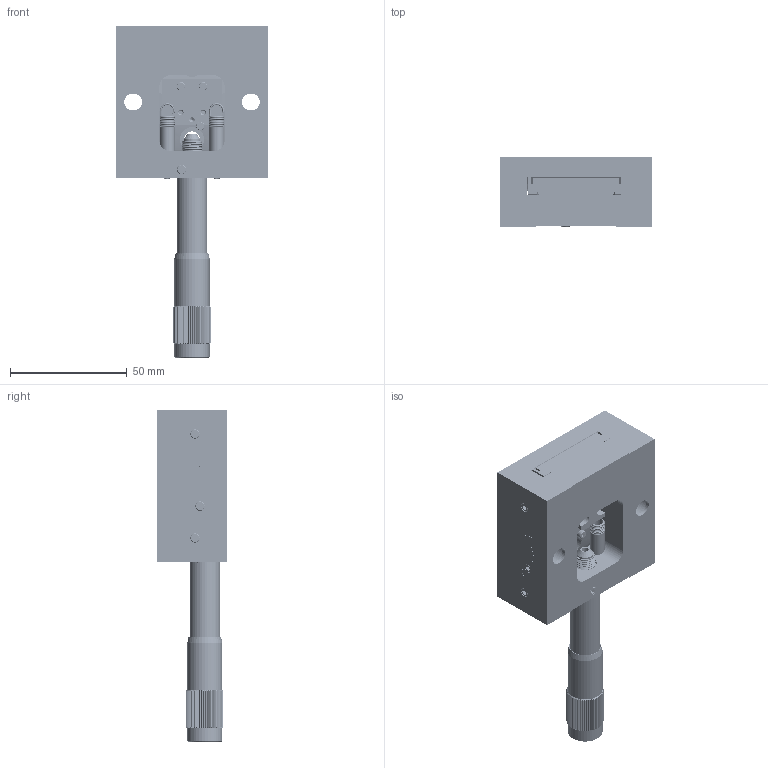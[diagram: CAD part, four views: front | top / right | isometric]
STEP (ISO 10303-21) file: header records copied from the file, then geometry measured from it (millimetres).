
FILE_DESCRIPTION (( 'STEP AP214' ), '1' );
FILE_NAME ('gon65-l-m_asm.STEP', '2022-07-07T03:54:34', ( '' ), ( '' ), 'SwSTEP 2.0', 'SolidWorks 2021', '' );
FILE_SCHEMA (( 'AUTOMOTIVE_DESIGN' ));
Length unit declared in the file: millimetre
Products named in the file (19): SPACER_6X2; M4X11_HM; SM25_A4; GON65-L-M_A4; gon65-l-m_asm(2); GON65-L-M_A1; gon65-l-m_asm; SPRING_6X22; SM25_A3; SM25_A1; GON65-L-M_A2; SM25_A2; M2X10_HM; AXLE_1_6X11; GON65-L-M_A3; M2X5_HM; SM25_A6; M4X5_HS_2; sm25_asm
Assembly tree (24 placements, depth 3):
  gon65-l-m_asm
    gon65-l-m_asm(2)
      GON65-L-M_A1
      GON65-L-M_A2
      GON65-L-M_A3
      GON65-L-M_A4
      SPRING_6X22
      SPACER_6X2
      M2X10_HM  x4
      M4X5_HS_2
      AXLE_1_6X11  x2
      M4X11_HM  x3
      M2X5_HM
    sm25_asm
      SM25_A1
      SM25_A2
      SM25_A3
      SM25_A4
      SM25_A6
Bounding box: 65 x 30 x 142 mm (x, y, z)
Volume: 105929 mm3; surface area: 51827.2 mm2
Topology: 24 solids, 24 shells, 2314 faces, 6464 edges, 4145 vertices
Faces by surface type: cylinder 1058, plane 506, bspline 464, cone 192, torus 94
Entity records: 175965 total; most frequent: CARTESIAN_POINT 125317, ORIENTED_EDGE 12358, DIRECTION 7401, EDGE_CURVE 6179, VERTEX_POINT 3995, B_SPLINE_CURVE_WITH_KNOTS 3266, AXIS2_PLACEMENT_3D 2713, EDGE_LOOP 2316
